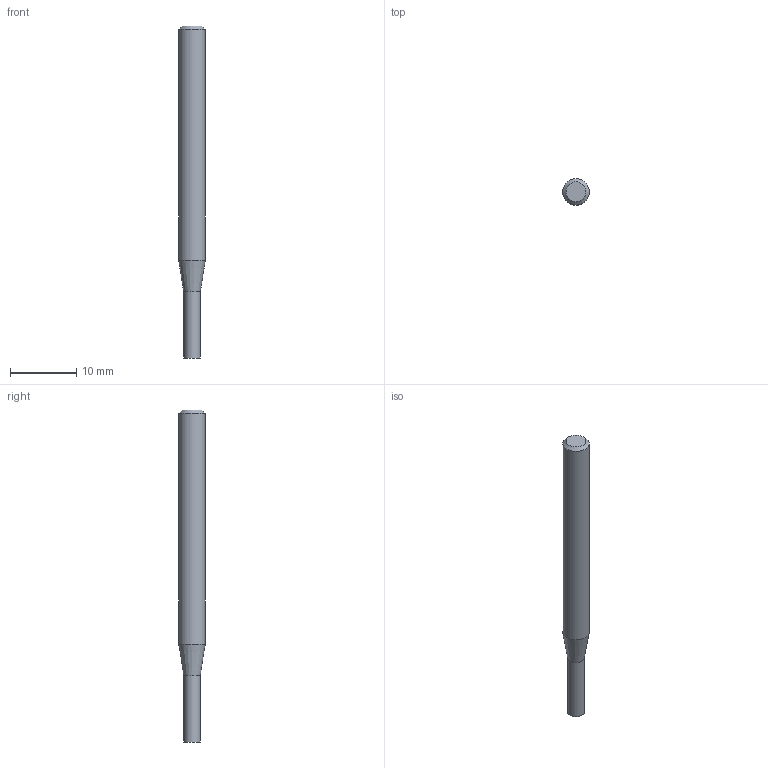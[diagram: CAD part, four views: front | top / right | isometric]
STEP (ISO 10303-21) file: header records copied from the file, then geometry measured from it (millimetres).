
FILE_DESCRIPTION((''),'2;1');
FILE_NAME('C:\Users\nsx150\AppData\Local\Temp\Mastercam 2021\W9Z147XDNF\TEMP.step','2021-04-08T14:47:14',(''),(''),'STEP Write','Mastercam 2021 ... CNC Software, Inc.','');
FILE_SCHEMA(('AUTOMOTIVE_DESIGN'));
Length unit declared in the file: millimetre
Products named in the file (1): None
Bounding box: 4 x 4 x 50 mm (x, y, z)
Volume: 530.8 mm3; surface area: 593.9 mm2
Topology: 2 solids, 2 shells, 8 faces, 10 edges, 6 vertices
Faces by surface type: plane 4, cylinder 2, cone 2
Full cylindrical faces by diameter (mm): 2.5 x1, 4 x1
Entity records: 190 total; most frequent: DIRECTION 32, CARTESIAN_POINT 22, AXIS2_PLACEMENT_3D 16, ORIENTED_EDGE 12, EDGE_LOOP 12, STYLED_ITEM 11, ADVANCED_FACE 8, VERTEX_POINT 6
